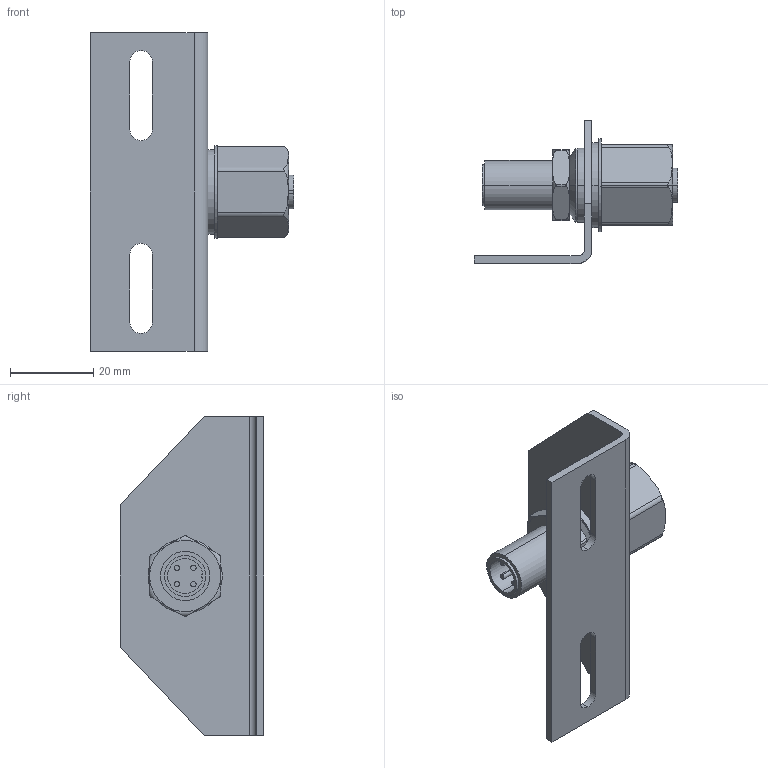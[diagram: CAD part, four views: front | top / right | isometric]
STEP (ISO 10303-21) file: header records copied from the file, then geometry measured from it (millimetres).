
FILE_DESCRIPTION (( 'STEP AP214' ), '1' );
FILE_NAME ('J-LX1-B.STEP', '2018-11-30T16:05:40', ( '' ), ( '' ), 'SwSTEP 2.0', 'SolidWorks 2018', '' );
FILE_SCHEMA (( 'AUTOMOTIVE_DESIGN' ));
Length unit declared in the file: inch
Products named in the file (15): Threaded Body; J-LX1-B; nut; Bracket; O-Ring; Shoulder Washer; Plastic Washer; washer
Assembly tree (7 placements, depth 2):
  Threaded Body
  J-LX1-B
    Threaded Body
    nut
    O-Ring
    Shoulder Washer
    Plastic Washer
    Bracket
    washer
  Bracket
  O-Ring
  nut
Bounding box: 48.79 x 34.29 x 76.2 mm (x, y, z)
Volume: 15613.9 mm3; surface area: 14880.4 mm2
Topology: 7 solids, 7 shells, 148 faces, 354 edges, 233 vertices
Faces by surface type: cylinder 69, plane 57, torus 14, cone 8
Entity records: 6133 total; most frequent: CARTESIAN_POINT 1292, DIRECTION 765, ORIENTED_EDGE 708, EDGE_CURVE 354, AXIS2_PLACEMENT_3D 302, VERTEX_POINT 233, EDGE_LOOP 177, VECTOR 161
